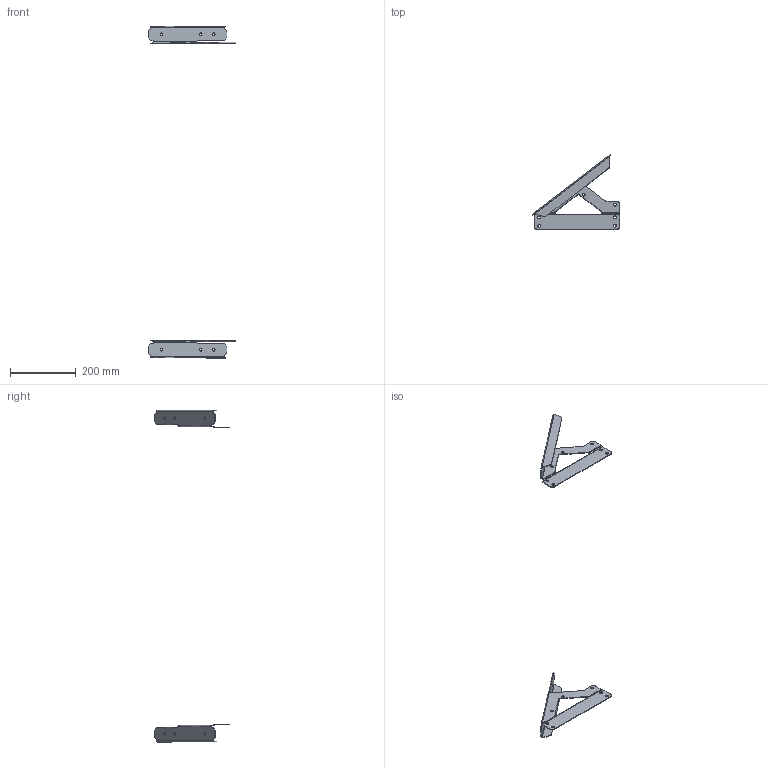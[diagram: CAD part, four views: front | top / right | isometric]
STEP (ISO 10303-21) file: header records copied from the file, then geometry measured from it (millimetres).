
FILE_DESCRIPTION (( 'STEP AP214' ), '1' );
FILE_NAME ('OPTIMO-Tread-Build-Achil-Visual-O2-900x250x45x2-st240-F130110101.STEP', '2021-08-09T06:55:03', ( '' ), ( '' ), 'SwSTEP 2.0', 'SolidWorks 2021', '' );
FILE_SCHEMA (( 'AUTOMOTIVE_DESIGN' ));
Length unit declared in the file: millimetre
Products named in the file (4): End-profile-right-st240-C210260100; Tread-plank-achil-O2-visual-st240-900x250x45x2-C210070100; End-profile-left-st240-C210250100; OPTIMO-Tread-Build-Achil-Visual-O2-900x250x45x2-st240-F130110101
Assembly tree (3 placements, depth 2):
  OPTIMO-Tread-Build-Achil-Visual-O2-900x250x45x2-st240-F130110101
    Tread-plank-achil-O2-visual-st240-900x250x45x2-C210070100
    End-profile-left-st240-C210250100
    End-profile-right-st240-C210260100
Bounding box: 266.25 x 226.42 x 1008.03 mm (x, y, z)
Volume: 167390.9 mm3; surface area: 174211.2 mm2
Topology: 2 solids, 2 shells, 214 faces, 562 edges, 348 vertices
Faces by surface type: cylinder 118, plane 78, bspline 18
Entity records: 371368 total; most frequent: DIRECTION 76522, CARTESIAN_POINT 61704, ORIENTED_EDGE 60616, AXIS2_PLACEMENT_3D 34678, EDGE_CURVE 30308, CIRCLE 23040, VERTEX_POINT 18652, EDGE_LOOP 13976
